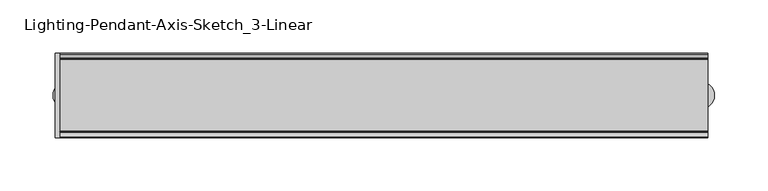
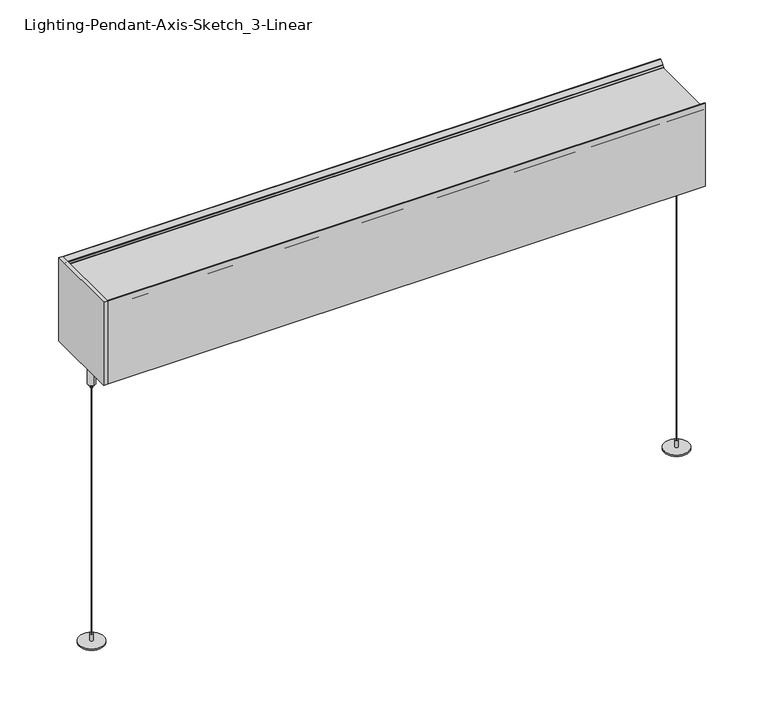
"""IFC4 building model written with IfcOpenShell, lengths in millimetres: light fixture geometry, Lighting-Pendant-Axis-Sketch_3-Linear : SK3PD-L-4-1300-80-35-SO."""

import ifcopenshell
import ifcopenshell.guid

model = None  # the IFC model being written
_history = None  # IfcOwnerHistory: only IFC2X3 demands one
_inside = {}  # id of a spatial element -> (the spatial element, [elements in it])
_under = {}  # id of a project, library or spatial element -> (it, [spatial elements below it])
_declared = {}  # id of a project -> (the project, [libraries it declares])
_typed = {}  # id of a type object -> (the type object, [elements of that type])
_made_of = {}  # id of a material, layer set ... -> (it, [elements and type objects made of it])


def new_model(schema):
    """Start an empty IFC model of exactly this schema.

    Asked for "IFC4X3", IfcOpenShell would pick the latest addendum, in which some entities
    have other attributes; the version numbers below select the first issue.
    IFC2X3 requires an IfcOwnerHistory on every rooted entity: one is made here for all.
    """
    global model, _history
    if schema == "IFC4X3":
        model = ifcopenshell.file(schema_version=(4, 3, 0, 0))
    else:
        model = ifcopenshell.file(schema=schema)
    _inside.clear()
    _under.clear()
    _declared.clear()
    _typed.clear()
    _made_of.clear()
    _history = None
    if model.schema == "IFC2X3":
        org = make("IfcOrganization", Name="unknown")
        user = make(
            "IfcPersonAndOrganization",
            ThePerson=make("IfcPerson", FamilyName="unknown"),
            TheOrganization=org,
        )
        app = make(
            "IfcApplication",
            ApplicationDeveloper=org,
            Version="unknown",
            ApplicationFullName="unknown",
            ApplicationIdentifier="unknown",
        )
        _history = make(
            "IfcOwnerHistory",
            OwningUser=user,
            OwningApplication=app,
            ChangeAction="ADDED",
            CreationDate=0,
        )
    return model


def make(cls, **values):
    """One entity of the class cls with the attributes given. An attribute that is None is left unset."""
    return model.create_entity(
        cls, **{name: value for name, value in values.items() if value is not None}
    )


def rooted(cls, **values):
    """An entity with a GlobalId (a new one), such as an element, a storey or a relation."""
    return make(cls, GlobalId=ifcopenshell.guid.new(), OwnerHistory=_history, **values)


def si_unit(unit_type, name, prefix=None):
    """IfcSIUnit, for example si_unit("LENGTHUNIT", "METRE", prefix="MILLI")."""
    return make("IfcSIUnit", UnitType=unit_type, Prefix=prefix, Name=name)


def assignment(units):
    """IfcUnitAssignment: the units of a project."""
    return None if units is None else make("IfcUnitAssignment", Units=units)


def point(xyz):
    """IfcCartesianPoint."""
    return None if xyz is None else make("IfcCartesianPoint", Coordinates=xyz)


def direction(xyz):
    """IfcDirection."""
    return None if xyz is None else make("IfcDirection", DirectionRatios=xyz)


def frame(location, z_axis=None, x_axis=None):
    """IfcAxis2Placement3D, a coordinate frame: its origin and axes. An axis left out is left unset."""
    return make(
        "IfcAxis2Placement3D",
        Location=point(location),
        Axis=direction(z_axis),
        RefDirection=direction(x_axis),
    )


def frame_2d(location, x_axis=None):
    """IfcAxis2Placement2D, a coordinate frame in the plane: its origin and x axis."""
    return make(
        "IfcAxis2Placement2D", Location=point(location), RefDirection=direction(x_axis)
    )


def origin():
    """The frame at (0, 0, 0) with its axes left unset."""
    return frame((0.0, 0.0, 0.0))


def origin_with_axes():
    """The frame at (0, 0, 0) with the z axis (0, 0, 1) and the x axis (1, 0, 0) written out."""
    return frame((0.0, 0.0, 0.0), z_axis=(0.0, 0.0, 1.0), x_axis=(1.0, 0.0, 0.0))


def place(relative_to, where):
    """IfcLocalPlacement: puts the frame where relative to a parent placement (None: the world)."""
    return make(
        "IfcLocalPlacement", PlacementRelTo=relative_to, RelativePlacement=where
    )


def context(
    kind, dimensions, precision=None, world=None, true_north=None, identifier=None
):
    """IfcGeometricRepresentationContext, for example the 3D "Model" context."""
    return make(
        "IfcGeometricRepresentationContext",
        ContextIdentifier=identifier,
        ContextType=kind,
        CoordinateSpaceDimension=dimensions,
        Precision=precision,
        WorldCoordinateSystem=world,
        TrueNorth=true_north,
    )


def project(units=None, contexts=None):
    """IfcProject with its units and contexts."""
    return rooted(
        "IfcProject",
        Name="project",
        RepresentationContexts=contexts,
        UnitsInContext=assignment(units),
    )


def spatial(cls, under=None, at=None, **own):
    """A site, building, storey or space (cls), placed at a placement, below another one or the project."""
    s = rooted(cls, ObjectPlacement=at, **own)
    if under is not None:
        _under.setdefault(under.id(), (under, []))[1].append(s)
    return s


def polyline(points):
    """IfcPolyline through the points."""
    return make("IfcPolyline", Points=[point(p) for p in points])


def circle_curve(where, radius):
    """IfcCircle in the frame where."""
    return make("IfcCircle", Position=where, Radius=radius)


def trimmed(basis, trim1, trim2, sense, master):
    """IfcTrimmedCurve: the piece of a basis curve between two trims."""
    return make(
        "IfcTrimmedCurve",
        BasisCurve=basis,
        Trim1=trim1,
        Trim2=trim2,
        SenseAgreement=sense,
        MasterRepresentation=master,
    )


def segment(curve, same_sense, transition):
    """IfcCompositeCurveSegment."""
    return make(
        "IfcCompositeCurveSegment",
        Transition=transition,
        SameSense=same_sense,
        ParentCurve=curve,
    )


def composite_curve(segments, self_intersect=None):
    """IfcCompositeCurve: segments joined end to end."""
    return make("IfcCompositeCurve", Segments=segments, SelfIntersect=self_intersect)


def outline(outer, holes=None, kind="AREA"):
    """IfcArbitraryClosedProfileDef: a profile drawn as a closed curve; with holes, ...WithVoids."""
    if holes is None:
        return make("IfcArbitraryClosedProfileDef", ProfileType=kind, OuterCurve=outer)
    return make(
        "IfcArbitraryProfileDefWithVoids",
        ProfileType=kind,
        OuterCurve=outer,
        InnerCurves=holes,
    )


def extrude(swept, where, along, depth):
    """IfcExtrudedAreaSolid: the profile swept, set in the frame where, extruded along a direction by depth."""
    return make(
        "IfcExtrudedAreaSolid",
        SweptArea=swept,
        Position=where,
        ExtrudedDirection=direction(along),
        Depth=depth,
    )


def shape(context_of_items, identifier, shape_type, items):
    """IfcShapeRepresentation: the items that make up one representation, for example the "Body"."""
    return make(
        "IfcShapeRepresentation",
        ContextOfItems=context_of_items,
        RepresentationIdentifier=identifier,
        RepresentationType=shape_type,
        Items=items,
    )


def source(mapping_origin, context_of_items, identifier, shape_type, items):
    """IfcRepresentationMap: a shape defined once, which mapped items show again and again."""
    return make(
        "IfcRepresentationMap",
        MappingOrigin=mapping_origin,
        MappedRepresentation=shape(context_of_items, identifier, shape_type, items),
    )


def transform(
    local_origin,
    x_axis=None,
    y_axis=None,
    z_axis=None,
    scale=None,
    scale2=None,
    scale3=None,
    uniform=True,
):
    """IfcCartesianTransformationOperator3D, or its non-uniform kind. x_axis, y_axis, z_axis: its Axis1, 2, 3."""
    if uniform:
        return make(
            "IfcCartesianTransformationOperator3D",
            Axis1=direction(x_axis),
            Axis2=direction(y_axis),
            LocalOrigin=point(local_origin),
            Scale=scale,
            Axis3=direction(z_axis),
        )
    return make(
        "IfcCartesianTransformationOperator3DnonUniform",
        Axis1=direction(x_axis),
        Axis2=direction(y_axis),
        LocalOrigin=point(local_origin),
        Scale=scale,
        Axis3=direction(z_axis),
        Scale2=scale2,
        Scale3=scale3,
    )


def mapped(mapping_source, mapping_target):
    """IfcMappedItem: shows the shape of a source again, moved by a transform."""
    return make(
        "IfcMappedItem", MappingSource=mapping_source, MappingTarget=mapping_target
    )


def made_of(thing, what):
    """Note that an element or type object is made of a material, layer set ...; save() writes the relation."""
    if what is not None:
        _made_of.setdefault(what.id(), (what, []))[1].append(thing)
    return thing


def element(
    cls,
    number,
    at=None,
    inside=None,
    cuts=None,
    type_object=None,
    material=None,
    context=None,
    identifier="Body",
    shape_type=None,
    held_by="IfcProductDefinitionShape",
    body=None,
    shapes=None,
    **own,
):
    """One element of the class cls, such as IfcWall. Its Tag is "e" and its number.

    at: its placement. inside: the storey or other place that contains it. cuts: it is an
    opening in that element (IfcRelVoidsElement). A single representation is given by context,
    identifier, shape_type and body (its items); several are given by shapes. held_by: the class
    of the entity that holds the representations. save() writes the other relations.
    """
    e = rooted(cls, Tag="e%d" % number, ObjectPlacement=at, **own)
    if body is not None:
        shapes = [shape(context, identifier, shape_type, body)]
    if shapes is not None:
        e.Representation = make(held_by, Representations=shapes)
    if inside is not None:
        _inside.setdefault(inside.id(), (inside, []))[1].append(e)
    if cuts is not None:
        rooted(
            "IfcRelVoidsElement", RelatingBuildingElement=cuts, RelatedOpeningElement=e
        )
    if type_object is not None:
        _typed.setdefault(type_object.id(), (type_object, []))[1].append(e)
    return made_of(e, material)


def aggregate(whole, parts):
    """IfcRelAggregates: a whole, such as a stair, and the parts it consists of."""
    return rooted("IfcRelAggregates", RelatingObject=whole, RelatedObjects=parts)


def save(model, path):
    """Write the relations noted so far, then the file.

    IfcRelAggregates (storeys below a building ...), IfcRelContainedInSpatialStructure (elements
    in a storey), IfcRelDefinesByType, IfcRelAssociatesMaterial and IfcRelDeclares: one each for
    every whole, place, type object, material and project.
    """
    for whole, parts in _under.values():
        aggregate(whole, parts)
    for where, things in _inside.values():
        rooted(
            "IfcRelContainedInSpatialStructure",
            RelatedElements=things,
            RelatingStructure=where,
        )
    for kind, things in _typed.values():
        rooted("IfcRelDefinesByType", RelatedObjects=things, RelatingType=kind)
    for what, things in _made_of.values():
        rooted("IfcRelAssociatesMaterial", RelatedObjects=things, RelatingMaterial=what)
    for by, libraries in _declared.values():
        rooted("IfcRelDeclares", RelatingContext=by, RelatedDefinitions=libraries)
    model.write(path)


def plane_surface(at):
    """IfcPlane: the flat surface through the origin of the frame at, square to its z axis."""
    return make("IfcPlane", Position=at)


def cylinder_surface(at, radius):
    """IfcCylindricalSurface: all points at the distance radius from the z axis of the frame at."""
    return make("IfcCylindricalSurface", Position=at, Radius=radius)


def advanced_brep(points, edges, surfaces, faces):
    """IfcAdvancedBrep: a solid bounded by faces that lie on surfaces and meet in shared edges.

    An edge is (start, end): straight between two places in points (the first is 0);
    or (start, end, curve); or (start, end, curve, False) where it runs against its curve.
    A face is (place in surfaces, loops), or (place, loops, False) where it looks against
    its surface's normal. A loop lists edges by number (the first is 1), with a minus sign
    where the edge is run from its end to its start. The first loop is the outer one.
    """
    corners = [point(p) for p in points]
    vertices = [make("IfcVertexPoint", VertexGeometry=c) for c in corners]
    made = []
    for start, end, *more in edges:
        made.append(
            make(
                "IfcEdgeCurve",
                EdgeStart=vertices[start],
                EdgeEnd=vertices[end],
                EdgeGeometry=more[0] if more else make("IfcPolyline", Points=[corners[start], corners[end]]),
                SameSense=more[1] if len(more) > 1 else True,
            )
        )
    hull = []
    for where, loops, *sense in faces:
        bounds = []
        for j, loop in enumerate(loops):
            ring = [make("IfcOrientedEdge", EdgeElement=made[abs(k) - 1], Orientation=k > 0) for k in loop]
            bounds.append(
                make(
                    "IfcFaceOuterBound" if j == 0 else "IfcFaceBound",
                    Bound=make("IfcEdgeLoop", EdgeList=ring),
                    Orientation=True,
                )
            )
        hull.append(make("IfcAdvancedFace", Bounds=bounds, FaceSurface=surfaces[where], SameSense=sense[0] if sense else True))
    return make("IfcAdvancedBrep", Outer=make("IfcClosedShell", CfsFaces=hull))


def lighting_pendant_axis_sketch_3_linear_6c92bb63(model_context):
    return source(origin(), model_context, "Body", "SolidModel", [
        extrude(outline(polyline([(-304.8, -39.6875), (-308.9529, -39.6875), (-308.9529, 39.6875), (-304.8, 39.6875), (-304.8, -39.6875)])), frame((0.0, 0.0, 304.8), z_axis=(0.0, 0.0, 1.0), x_axis=(1.0, 0.0, 0.0)), (0.0, 0.0, 1.0), 89.70518),
        extrude(outline(composite_curve([segment(trimmed(circle_curve(frame_2d((298.45, 0.0)), 0.396875), [point((298.053125, 0.0))], [point((298.846875, 0.0))], False, "CARTESIAN"), True, "CONTINUOUS"), segment(trimmed(circle_curve(frame_2d((298.45, 0.0)), 0.396875), [point((298.846875, 0.0))], [point((298.053125, 0.0))], False, "CARTESIAN"), True, "CONTINUOUS")], self_intersect=False)), frame((0.0, 0.0, 9.525), z_axis=(0.0, 0.0, 1.0), x_axis=(1.0, 0.0, 0.0)), (0.0, 0.0, 1.0), 295.275),
        advanced_brep(
        [(298.45, 1.2, 278.3008521), (298.45, -1.2, 278.3008521), (298.45, -2.95625, 278.3008521), (298.45, 2.95625, 278.3008521), (298.45, 1.2, 275.4508521), (298.45, -1.2, 275.4508521), (298.45, 0.0, 275.4508521), (298.45, 3.75, 311.2364681), (298.45, -3.75, 311.2364681), (298.45, 0.0, 311.2364681), (298.45, 3.75, 279.3008521), (298.45, -3.75, 279.3008521), (298.45, 2.95625, 279.3008521), (298.45, -2.95625, 279.3008521)],
        [
            (0, 1, circle_curve(frame((298.45, 0.0, 278.3008521), z_axis=(0.0, 0.0, 1.0), x_axis=(0.0, -1.0, 0.0)), 1.2)),
            (1, 2),
            (2, 3, circle_curve(frame((298.45, 0.0, 278.3008521), z_axis=(0.0, 0.0, -1.0), x_axis=(0.0, -1.0, 0.0)), 2.95625)),
            (3, 0),
            (1, 0, circle_curve(frame((298.45, 0.0, 278.3008521), z_axis=(0.0, 0.0, 1.0), x_axis=(0.0, -1.0, 0.0)), 1.2)),
            (3, 2, circle_curve(frame((298.45, 0.0, 278.3008521), z_axis=(0.0, 0.0, -1.0), x_axis=(0.0, -1.0, 0.0)), 2.95625)),
            (4, 5, circle_curve(frame((298.45, 0.0, 275.4508521), z_axis=(0.0, 0.0, 1.0), x_axis=(0.0, -1.0, 0.0)), 1.2)),
            (5, 1),
            (0, 4),
            (5, 4, circle_curve(frame((298.45, 0.0, 275.4508521), z_axis=(0.0, 0.0, 1.0), x_axis=(0.0, -1.0, 0.0)), 1.2)),
            (6, 5),
            (4, 6),
            (7, 8, circle_curve(frame((298.45, 0.0, 311.2364681), z_axis=(0.0, 0.0, 1.0), x_axis=(0.0, -1.0, 0.0)), 3.75)),
            (8, 9),
            (9, 7),
            (8, 7, circle_curve(frame((298.45, 0.0, 311.2364681), z_axis=(0.0, 0.0, 1.0), x_axis=(0.0, -1.0, 0.0)), 3.75)),
            (10, 11, circle_curve(frame((298.45, 0.0, 279.3008521), z_axis=(0.0, 0.0, 1.0), x_axis=(0.0, -1.0, 0.0)), 3.75)),
            (11, 8),
            (7, 10),
            (11, 10, circle_curve(frame((298.45, 0.0, 279.3008521), z_axis=(0.0, 0.0, 1.0), x_axis=(0.0, -1.0, 0.0)), 3.75)),
            (12, 13, circle_curve(frame((298.45, 0.0, 279.3008521), z_axis=(0.0, 0.0, 1.0), x_axis=(0.0, -1.0, 0.0)), 2.95625)),
            (13, 11),
            (10, 12),
            (13, 12, circle_curve(frame((298.45, 0.0, 279.3008521), z_axis=(0.0, 0.0, 1.0), x_axis=(0.0, -1.0, 0.0)), 2.95625)),
            (2, 13),
            (12, 3),
        ],
        [
            plane_surface(frame((298.45, 0.0, 278.3008521), z_axis=(0.0, 0.0, -1.0), x_axis=(0.0, -1.0, 0.0))),
            cylinder_surface(frame((298.45, 0.0, 2343.8067943), z_axis=(0.0, 0.0, -1.0), x_axis=(0.0, -1.0, 0.0)), 1.2),
            plane_surface(frame((298.45, 0.0, 275.4508521), z_axis=(0.0, 0.0, -1.0), x_axis=(0.0, -1.0, 0.0))),
            plane_surface(frame((298.45, 0.0, 311.2364681), z_axis=(0.0, 0.0, 1.0), x_axis=(0.0, -1.0, 0.0))),
            cylinder_surface(frame((298.45, 0.0, 2343.8067943), z_axis=(0.0, 0.0, -1.0), x_axis=(0.0, -1.0, 0.0)), 3.75),
            plane_surface(frame((298.45, 0.0, 279.3008521), z_axis=(0.0, 0.0, -1.0), x_axis=(0.0, -1.0, 0.0))),
            cylinder_surface(frame((298.45, 0.0, 2343.8067943), z_axis=(0.0, 0.0, -1.0), x_axis=(0.0, -1.0, 0.0)), 2.95625),
        ],
        [
            (0, [[1, 2, 3, 4]]),
            (0, [[5, -4, 6, -2]]),
            (1, [[7, 8, -1, 9]]),
            (1, [[10, -9, -5, -8]]),
            (2, [[11, -7, 12]]),
            (2, [[-12, -10, -11]]),
            (3, [[13, 14, 15]]),
            (3, [[16, -15, -14]]),
            (4, [[17, 18, -13, 19]]),
            (4, [[20, -19, -16, -18]]),
            (5, [[21, 22, -17, 23]]),
            (5, [[24, -23, -20, -22]]),
            (6, [[-3, 25, -21, 26]]),
            (6, [[-6, -26, -24, -25]]),
        ],
    ),
        extrude(outline(composite_curve([segment(trimmed(circle_curve(frame_2d((298.45, 0.0)), 12.7), [point((285.75, 0.0))], [point((311.15, 0.0))], False, "CARTESIAN"), True, "CONTINUOUS"), segment(trimmed(circle_curve(frame_2d((298.45, 0.0)), 12.7), [point((311.15, 0.0))], [point((285.75, 0.0))], False, "CARTESIAN"), True, "CONTINUOUS")], self_intersect=False)), origin_with_axes(), (0.0, 0.0, 1.0), 1.5875),
        extrude(outline(composite_curve([segment(trimmed(circle_curve(frame_2d((298.45, 0.0)), 1.5875), [point((296.8625, 0.0))], [point((300.0375, 0.0))], False, "CARTESIAN"), True, "CONTINUOUS"), segment(trimmed(circle_curve(frame_2d((298.45, 0.0)), 1.5875), [point((300.0375, 0.0))], [point((296.8625, 0.0))], False, "CARTESIAN"), True, "CONTINUOUS")], self_intersect=False)), frame((0.0, 0.0, 1.5875), z_axis=(0.0, 0.0, 1.0), x_axis=(1.0, 0.0, 0.0)), (0.0, 0.0, 1.0), 7.9375),
        extrude(outline(composite_curve([segment(trimmed(circle_curve(frame_2d((-298.45, 0.0)), 0.396875), [point((-298.846875, 0.0))], [point((-298.053125, 0.0))], False, "CARTESIAN"), True, "CONTINUOUS"), segment(trimmed(circle_curve(frame_2d((-298.45, 0.0)), 0.396875), [point((-298.053125, 0.0))], [point((-298.846875, 0.0))], False, "CARTESIAN"), True, "CONTINUOUS")], self_intersect=False)), frame((0.0, 0.0, 9.525), z_axis=(0.0, 0.0, 1.0), x_axis=(1.0, 0.0, 0.0)), (0.0, 0.0, 1.0), 295.275),
        advanced_brep(
        [(-298.45, 1.2, 278.3008521), (-298.45, -1.2, 278.3008521), (-298.45, -2.95625, 278.3008521), (-298.45, 2.95625, 278.3008521), (-298.45, 1.2, 275.4508521), (-298.45, -1.2, 275.4508521), (-298.45, 0.0, 275.4508521), (-298.45, 3.75, 311.2364681), (-298.45, -3.75, 311.2364681), (-298.45, 0.0, 311.2364681), (-298.45, 3.75, 279.3008521), (-298.45, -3.75, 279.3008521), (-298.45, 2.95625, 279.3008521), (-298.45, -2.95625, 279.3008521)],
        [
            (0, 1, circle_curve(frame((-298.45, 0.0, 278.3008521), z_axis=(0.0, 0.0, 1.0), x_axis=(0.0, -1.0, 0.0)), 1.2)),
            (1, 2),
            (2, 3, circle_curve(frame((-298.45, 0.0, 278.3008521), z_axis=(0.0, 0.0, -1.0), x_axis=(0.0, -1.0, 0.0)), 2.95625)),
            (3, 0),
            (1, 0, circle_curve(frame((-298.45, 0.0, 278.3008521), z_axis=(0.0, 0.0, 1.0), x_axis=(0.0, -1.0, 0.0)), 1.2)),
            (3, 2, circle_curve(frame((-298.45, 0.0, 278.3008521), z_axis=(0.0, 0.0, -1.0), x_axis=(0.0, -1.0, 0.0)), 2.95625)),
            (4, 5, circle_curve(frame((-298.45, 0.0, 275.4508521), z_axis=(0.0, 0.0, 1.0), x_axis=(0.0, -1.0, 0.0)), 1.2)),
            (5, 1),
            (0, 4),
            (5, 4, circle_curve(frame((-298.45, 0.0, 275.4508521), z_axis=(0.0, 0.0, 1.0), x_axis=(0.0, -1.0, 0.0)), 1.2)),
            (6, 5),
            (4, 6),
            (7, 8, circle_curve(frame((-298.45, 0.0, 311.2364681), z_axis=(0.0, 0.0, 1.0), x_axis=(0.0, -1.0, 0.0)), 3.75)),
            (8, 9),
            (9, 7),
            (8, 7, circle_curve(frame((-298.45, 0.0, 311.2364681), z_axis=(0.0, 0.0, 1.0), x_axis=(0.0, -1.0, 0.0)), 3.75)),
            (10, 11, circle_curve(frame((-298.45, 0.0, 279.3008521), z_axis=(0.0, 0.0, 1.0), x_axis=(0.0, -1.0, 0.0)), 3.75)),
            (11, 8),
            (7, 10),
            (11, 10, circle_curve(frame((-298.45, 0.0, 279.3008521), z_axis=(0.0, 0.0, 1.0), x_axis=(0.0, -1.0, 0.0)), 3.75)),
            (12, 13, circle_curve(frame((-298.45, 0.0, 279.3008521), z_axis=(0.0, 0.0, 1.0), x_axis=(0.0, -1.0, 0.0)), 2.95625)),
            (13, 11),
            (10, 12),
            (13, 12, circle_curve(frame((-298.45, 0.0, 279.3008521), z_axis=(0.0, 0.0, 1.0), x_axis=(0.0, -1.0, 0.0)), 2.95625)),
            (2, 13),
            (12, 3),
        ],
        [
            plane_surface(frame((-298.45, 0.0, 278.3008521), z_axis=(0.0, 0.0, -1.0), x_axis=(0.0, -1.0, 0.0))),
            cylinder_surface(frame((-298.45, 0.0, 2343.8067943), z_axis=(0.0, 0.0, -1.0), x_axis=(0.0, -1.0, 0.0)), 1.2),
            plane_surface(frame((-298.45, 0.0, 275.4508521), z_axis=(0.0, 0.0, -1.0), x_axis=(0.0, -1.0, 0.0))),
            plane_surface(frame((-298.45, 0.0, 311.2364681), z_axis=(0.0, 0.0, 1.0), x_axis=(0.0, -1.0, 0.0))),
            cylinder_surface(frame((-298.45, 0.0, 2343.8067943), z_axis=(0.0, 0.0, -1.0), x_axis=(0.0, -1.0, 0.0)), 3.75),
            plane_surface(frame((-298.45, 0.0, 279.3008521), z_axis=(0.0, 0.0, -1.0), x_axis=(0.0, -1.0, 0.0))),
            cylinder_surface(frame((-298.45, 0.0, 2343.8067943), z_axis=(0.0, 0.0, -1.0), x_axis=(0.0, -1.0, 0.0)), 2.95625),
        ],
        [
            (0, [[1, 2, 3, 4]]),
            (0, [[5, -4, 6, -2]]),
            (1, [[7, 8, -1, 9]]),
            (1, [[10, -9, -5, -8]]),
            (2, [[11, -7, 12]]),
            (2, [[-12, -10, -11]]),
            (3, [[13, 14, 15]]),
            (3, [[16, -15, -14]]),
            (4, [[17, 18, -13, 19]]),
            (4, [[20, -19, -16, -18]]),
            (5, [[21, 22, -17, 23]]),
            (5, [[24, -23, -20, -22]]),
            (6, [[-3, 25, -21, 26]]),
            (6, [[-6, -26, -24, -25]]),
        ],
    ),
        extrude(outline(composite_curve([segment(trimmed(circle_curve(frame_2d((-298.45, 0.0)), 12.7), [point((-311.15, 0.0))], [point((-285.75, 0.0))], False, "CARTESIAN"), True, "CONTINUOUS"), segment(trimmed(circle_curve(frame_2d((-298.45, 0.0)), 12.7), [point((-285.75, 0.0))], [point((-311.15, 0.0))], False, "CARTESIAN"), True, "CONTINUOUS")], self_intersect=False)), origin_with_axes(), (0.0, 0.0, 1.0), 1.5875),
        extrude(outline(composite_curve([segment(trimmed(circle_curve(frame_2d((-298.45, 0.0)), 1.5875), [point((-300.0375, 0.0))], [point((-296.8625, 0.0))], False, "CARTESIAN"), True, "CONTINUOUS"), segment(trimmed(circle_curve(frame_2d((-298.45, 0.0)), 1.5875), [point((-296.8625, 0.0))], [point((-300.0375, 0.0))], False, "CARTESIAN"), True, "CONTINUOUS")], self_intersect=False)), frame((0.0, 0.0, 1.5875), z_axis=(0.0, 0.0, 1.0), x_axis=(1.0, 0.0, 0.0)), (0.0, 0.0, 1.0), 7.9375),
        extrude(outline(polyline([(-304.8, -35.56), (-304.8, 35.56), (304.8, 35.56), (304.8, -35.56), (-304.8, -35.56)])), frame((0.0, 0.0, 311.2364681), z_axis=(0.0, 0.0, 1.0), x_axis=(1.0, 0.0, 0.0)), (0.0, 0.0, 1.0), 1.27),
        extrude(outline(polyline([(304.8, 35.56), (304.8, -35.56), (-304.8, -35.56), (-304.8, 35.56), (304.8, 35.56)])), frame((0.0, 0.0, 386.612403), z_axis=(0.0, 0.0, 1.0), x_axis=(1.0, 0.0, 0.0)), (0.0, 0.0, 1.0), 1.27),
        extrude(outline(polyline([(35.2425, 390.779), (38.89375, 394.5055795), (39.6875, 394.5055795), (39.6875, 304.8), (36.1315, 304.8), (34.6075, 306.324), (34.6075, 308.483), (35.8775, 308.483), (35.8775, 306.705), (37.7825, 306.705), (37.7825, 390.779), (35.2425, 390.779)])), frame((-304.8, 0.0, 0.0), z_axis=(1.0, 0.0, 0.0), x_axis=(0.0, 1.0, 0.0)), (0.0, 0.0, 1.0), 609.6),
        extrude(outline(composite_curve([segment(polyline([(34.4369494, 321.810257), (34.5887361, 314.1776256), (35.9859878, 314.1776256)]), True, "CONTINUOUS"), segment(trimmed(circle_curve(frame_2d((35.9859878, 313.3838756)), 0.79375), [point((35.9859878, 314.1776256))], [point((36.7779365, 313.3304311))], False, "CARTESIAN"), True, "CONTINUOUS"), segment(polyline([(36.7779365, 313.3304311), (36.5675604, 310.2130412)]), True, "CONTINUOUS"), segment(trimmed(circle_curve(frame_2d((35.1426868, 310.3177537)), 1.428716), [point((36.5675604, 310.2130412))], [point((36.146856, 309.3014498))], False, "CARTESIAN"), True, "CONTINUOUS"), segment(trimmed(circle_curve(frame_2d((35.5073083, 309.7638115)), 0.7891766), [point((36.146856, 309.3014498))], [point((34.9129694, 309.244619))], False, "CARTESIAN"), True, "CONTINUOUS"), segment(polyline([(34.9129694, 309.244619), (33.9271376, 310.3731371)]), True, "CONTINUOUS"), segment(trimmed(circle_curve(frame_2d((34.3097188, 310.707346)), 0.508), [point((33.9271376, 310.3731371))], [point((34.3097188, 311.215346))], False, "CARTESIAN"), True, "CONTINUOUS"), segment(polyline([(34.3097188, 311.215346), (35.6168897, 311.215346), (35.7107202, 312.605743)]), True, "CONTINUOUS"), segment(trimmed(circle_curve(frame_2d((35.2038731, 312.6399474)), 0.508), [point((35.7107202, 312.605743))], [point((35.2380775, 313.1467946))], True, "CARTESIAN"), True, "CONTINUOUS"), segment(polyline([(35.2380775, 313.1467946), (33.5908242, 313.257959), (33.393867, 323.1620008), (33.6080539, 329.7549269)]), True, "CONTINUOUS"), segment(trimmed(circle_curve(frame_2d((34.115786, 329.7384321)), 0.508), [point((33.6080539, 329.7549269))], [point((34.6235182, 329.7219372))], False, "CARTESIAN"), True, "CONTINUOUS"), segment(polyline([(34.6235182, 329.7219372), (34.4338694, 323.8843227), (34.4369494, 321.810257)]), True, "CONTINUOUS")], self_intersect=False)), frame((-304.8, 0.0, 0.0), z_axis=(1.0, 0.0, 0.0), x_axis=(0.0, 1.0, 0.0)), (0.0, 0.0, 1.0), 609.6),
        extrude(outline(composite_curve([segment(polyline([(34.4369494, 377.4953225), (34.4338694, 375.4212568), (34.6235182, 369.5836423)]), True, "CONTINUOUS"), segment(trimmed(circle_curve(frame_2d((34.115786, 369.5671475)), 0.508), [point((34.6235182, 369.5836423))], [point((33.6080539, 369.5506526))], False, "CARTESIAN"), True, "CONTINUOUS"), segment(polyline([(33.6080539, 369.5506526), (33.393867, 376.1435787), (33.5908242, 386.0476205), (35.2380775, 386.1587849)]), True, "CONTINUOUS"), segment(trimmed(circle_curve(frame_2d((35.2038731, 386.6656321)), 0.508), [point((35.2380775, 386.1587849))], [point((35.7107202, 386.6998365))], True, "CARTESIAN"), True, "CONTINUOUS"), segment(polyline([(35.7107202, 386.6998365), (35.6168897, 388.0902335), (34.3097188, 388.0902335)]), True, "CONTINUOUS"), segment(trimmed(circle_curve(frame_2d((34.3097188, 388.5982335)), 0.508), [point((34.3097188, 388.0902335))], [point((33.9271376, 388.9324424))], False, "CARTESIAN"), True, "CONTINUOUS"), segment(polyline([(33.9271376, 388.9324424), (34.9129694, 390.0609605)]), True, "CONTINUOUS"), segment(trimmed(circle_curve(frame_2d((35.5073083, 389.541768)), 0.7891766), [point((34.9129694, 390.0609605))], [point((36.146856, 390.0041297))], False, "CARTESIAN"), True, "CONTINUOUS"), segment(trimmed(circle_curve(frame_2d((35.1426868, 388.9878258)), 1.428716), [point((36.146856, 390.0041297))], [point((36.5675604, 389.0925383))], False, "CARTESIAN"), True, "CONTINUOUS"), segment(polyline([(36.5675604, 389.0925383), (36.7779365, 385.9751484)]), True, "CONTINUOUS"), segment(trimmed(circle_curve(frame_2d((35.9859878, 385.9217039)), 0.79375), [point((36.7779365, 385.9751484))], [point((35.9859878, 385.1279539))], False, "CARTESIAN"), True, "CONTINUOUS"), segment(polyline([(35.9859878, 385.1279539), (34.5887361, 385.1279539), (34.4369494, 377.4953225)]), True, "CONTINUOUS")], self_intersect=False)), frame((-304.8, 0.0, 0.0), z_axis=(1.0, 0.0, 0.0), x_axis=(0.0, 1.0, 0.0)), (0.0, 0.0, 1.0), 609.6),
        extrude(outline(polyline([(-35.2425, 390.779), (-37.7825, 390.779), (-37.7825, 306.705), (-35.8775, 306.705), (-35.8775, 308.483), (-34.6075, 308.483), (-34.6075, 306.324), (-36.1315, 304.8), (-39.6875, 304.8), (-39.6875, 394.5055795), (-38.89375, 394.5055795), (-35.2425, 390.779)])), frame((-304.8, 0.0, 0.0), z_axis=(1.0, 0.0, 0.0), x_axis=(0.0, 1.0, 0.0)), (0.0, 0.0, 1.0), 609.6),
        extrude(outline(composite_curve([segment(polyline([(-34.4369494, 321.810257), (-34.4338694, 323.8843227), (-34.6235182, 329.7219372)]), True, "CONTINUOUS"), segment(trimmed(circle_curve(frame_2d((-34.115786, 329.7384321)), 0.508), [point((-34.6235182, 329.7219372))], [point((-33.6080539, 329.7549269))], False, "CARTESIAN"), True, "CONTINUOUS"), segment(polyline([(-33.6080539, 329.7549269), (-33.393867, 323.1620008), (-33.5908242, 313.257959), (-35.2380775, 313.1467946)]), True, "CONTINUOUS"), segment(trimmed(circle_curve(frame_2d((-35.2038731, 312.6399474)), 0.508), [point((-35.2380775, 313.1467946))], [point((-35.7107202, 312.605743))], True, "CARTESIAN"), True, "CONTINUOUS"), segment(polyline([(-35.7107202, 312.605743), (-35.6168897, 311.215346), (-34.3097188, 311.215346)]), True, "CONTINUOUS"), segment(trimmed(circle_curve(frame_2d((-34.3097188, 310.707346)), 0.508), [point((-34.3097188, 311.215346))], [point((-33.9271376, 310.3731371))], False, "CARTESIAN"), True, "CONTINUOUS"), segment(polyline([(-33.9271376, 310.3731371), (-34.9129694, 309.244619)]), True, "CONTINUOUS"), segment(trimmed(circle_curve(frame_2d((-35.5073083, 309.7638115)), 0.7891766), [point((-34.9129694, 309.244619))], [point((-36.146856, 309.3014498))], False, "CARTESIAN"), True, "CONTINUOUS"), segment(trimmed(circle_curve(frame_2d((-35.1426868, 310.3177537)), 1.428716), [point((-36.146856, 309.3014498))], [point((-36.5675604, 310.2130412))], False, "CARTESIAN"), True, "CONTINUOUS"), segment(polyline([(-36.5675604, 310.2130412), (-36.7779365, 313.3304311)]), True, "CONTINUOUS"), segment(trimmed(circle_curve(frame_2d((-35.9859878, 313.3838756)), 0.79375), [point((-36.7779365, 313.3304311))], [point((-35.9859878, 314.1776256))], False, "CARTESIAN"), True, "CONTINUOUS"), segment(polyline([(-35.9859878, 314.1776256), (-34.5887361, 314.1776256), (-34.4369494, 321.810257)]), True, "CONTINUOUS")], self_intersect=False)), frame((-304.8, 0.0, 0.0), z_axis=(1.0, 0.0, 0.0), x_axis=(0.0, 1.0, 0.0)), (0.0, 0.0, 1.0), 609.6),
        extrude(outline(composite_curve([segment(polyline([(-34.4369494, 377.4953225), (-34.5887361, 385.1279539), (-35.9859878, 385.1279539)]), True, "CONTINUOUS"), segment(trimmed(circle_curve(frame_2d((-35.9859878, 385.9217039)), 0.79375), [point((-35.9859878, 385.1279539))], [point((-36.7779365, 385.9751484))], False, "CARTESIAN"), True, "CONTINUOUS"), segment(polyline([(-36.7779365, 385.9751484), (-36.5675604, 389.0925383)]), True, "CONTINUOUS"), segment(trimmed(circle_curve(frame_2d((-35.1426868, 388.9878258)), 1.428716), [point((-36.5675604, 389.0925383))], [point((-36.146856, 390.0041297))], False, "CARTESIAN"), True, "CONTINUOUS"), segment(trimmed(circle_curve(frame_2d((-35.5073083, 389.541768)), 0.7891766), [point((-36.146856, 390.0041297))], [point((-34.9129694, 390.0609605))], False, "CARTESIAN"), True, "CONTINUOUS"), segment(polyline([(-34.9129694, 390.0609605), (-33.9271376, 388.9324424)]), True, "CONTINUOUS"), segment(trimmed(circle_curve(frame_2d((-34.3097188, 388.5982335)), 0.508), [point((-33.9271376, 388.9324424))], [point((-34.3097188, 388.0902335))], False, "CARTESIAN"), True, "CONTINUOUS"), segment(polyline([(-34.3097188, 388.0902335), (-35.6168897, 388.0902335), (-35.7107202, 386.6998365)]), True, "CONTINUOUS"), segment(trimmed(circle_curve(frame_2d((-35.2038731, 386.6656321)), 0.508), [point((-35.7107202, 386.6998365))], [point((-35.2380775, 386.1587849))], True, "CARTESIAN"), True, "CONTINUOUS"), segment(polyline([(-35.2380775, 386.1587849), (-33.5908242, 386.0476205), (-33.393867, 376.1435787), (-33.6080539, 369.5506526)]), True, "CONTINUOUS"), segment(trimmed(circle_curve(frame_2d((-34.115786, 369.5671475)), 0.508), [point((-33.6080539, 369.5506526))], [point((-34.6235182, 369.5836423))], False, "CARTESIAN"), True, "CONTINUOUS"), segment(polyline([(-34.6235182, 369.5836423), (-34.4338694, 375.4212568), (-34.4369494, 377.4953225)]), True, "CONTINUOUS")], self_intersect=False)), frame((-304.8, 0.0, 0.0), z_axis=(1.0, 0.0, 0.0), x_axis=(0.0, 1.0, 0.0)), (0.0, 0.0, 1.0), 609.6),
    ])


if __name__ == "__main__":
    model = new_model("IFC4")
    model_context = context("Model", 3, world=origin())
    ifc_project = project(units=[si_unit("LENGTHUNIT", "METRE", prefix="MILLI")], contexts=[model_context])
    site = spatial("IfcSite", under=ifc_project)
    building = spatial("IfcBuilding", under=site)
    placement = place(None, origin())
    lighting_pendant_axis_sketch_3_linear_shape = lighting_pendant_axis_sketch_3_linear_6c92bb63(model_context)
    element("IfcLightFixture", 1, ObjectType="Lighting-Pendant-Axis-Sketch_3-Linear : SK3PD-L-4-1300-80-35-SO", at=placement, inside=building, context=model_context, shape_type="MappedRepresentation", body=[
        mapped(lighting_pendant_axis_sketch_3_linear_shape, transform((0.0, 0.0, 0.0), x_axis=(1.0, 0.0, 0.0), y_axis=(0.0, 1.0, 0.0), z_axis=(0.0, 0.0, 1.0))),
    ])
    save(model, "model.ifc")
